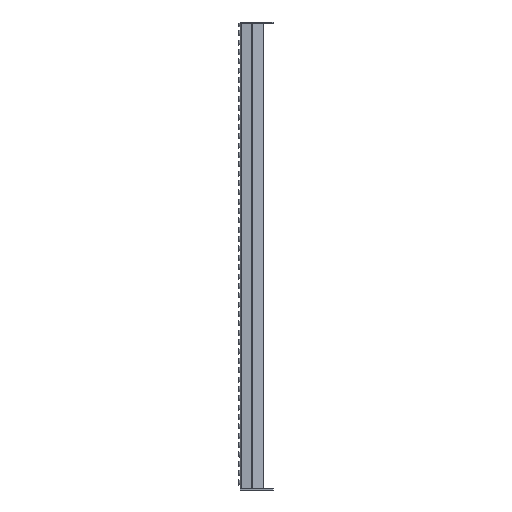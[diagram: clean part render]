
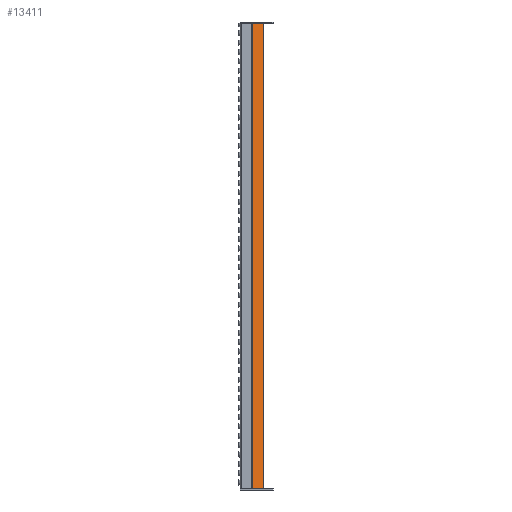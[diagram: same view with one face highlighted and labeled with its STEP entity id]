
A CAD part, left-side view. The second image highlights one B-rep face of the part: STEP entity #13411.
In plain terms, the highlighted planar face has unit normal (-0.94, -0.342, 0).
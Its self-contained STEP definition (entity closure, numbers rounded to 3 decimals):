
#2006=FACE_OUTER_BOUND('',#3105,.T.);
#3105=EDGE_LOOP('',(#11450,#11451,#11452,#11453));
#4072=LINE('',#25199,#5312);
#4091=LINE('',#25246,#5331);
#4093=LINE('',#25252,#5333);
#4097=LINE('',#25259,#5337);
#5312=VECTOR('',#17934,10.);
#5331=VECTOR('',#17977,10.);
#5333=VECTOR('',#17983,10.);
#5337=VECTOR('',#17991,10.);
#6686=VERTEX_POINT('',#25196);
#6687=VERTEX_POINT('',#25198);
#6703=VERTEX_POINT('',#25245);
#6705=VERTEX_POINT('',#25251);
#8307=EDGE_CURVE('',#6687,#6686,#4072,.T.);
#8331=EDGE_CURVE('',#6686,#6703,#4091,.T.);
#8334=EDGE_CURVE('',#6705,#6687,#4093,.T.);
#8338=EDGE_CURVE('',#6703,#6705,#4097,.T.);
#11450=ORIENTED_EDGE('',*,*,#8331,.T.);
#11451=ORIENTED_EDGE('',*,*,#8338,.T.);
#11452=ORIENTED_EDGE('',*,*,#8334,.T.);
#11453=ORIENTED_EDGE('',*,*,#8307,.T.);
#12530=PLANE('',#14808);
#13411=ADVANCED_FACE('',(#2006),#12530,.T.);
#14808=AXIS2_PLACEMENT_3D('',#25258,#17989,#17990);
#17934=DIRECTION('',(-0.342,0.94,0.));
#17977=DIRECTION('',(0.,0.,-1.));
#17983=DIRECTION('',(0.,0.,1.));
#17989=DIRECTION('center_axis',(-0.94,-0.342,0.));
#17990=DIRECTION('ref_axis',(0.,0.,1.));
#17991=DIRECTION('',(0.342,-0.94,0.));
#25196=CARTESIAN_POINT('',(0.196,-25.539,994.));
#25198=CARTESIAN_POINT('',(9.099,-50.,994.));
#25199=CARTESIAN_POINT('',(0.,-25.,994.));
#25245=CARTESIAN_POINT('',(0.196,-25.539,0.));
#25246=CARTESIAN_POINT('',(0.196,-25.539,0.));
#25251=CARTESIAN_POINT('',(9.099,-50.,0.));
#25252=CARTESIAN_POINT('',(9.099,-50.,0.));
#25258=CARTESIAN_POINT('Origin',(9.099,-50.,0.));
#25259=CARTESIAN_POINT('',(0.,-25.,0.));
